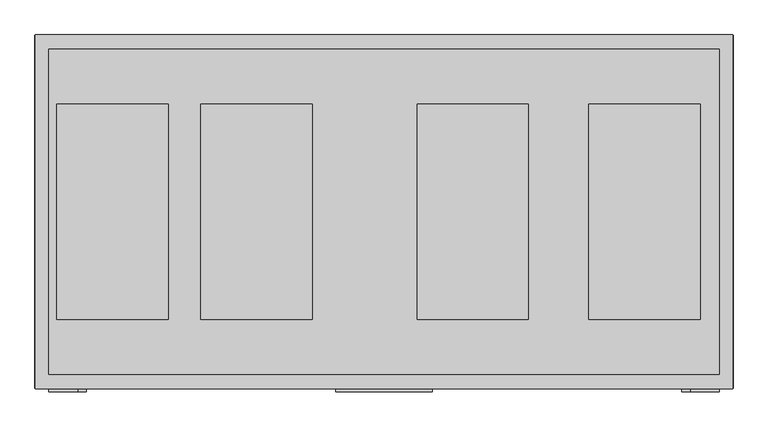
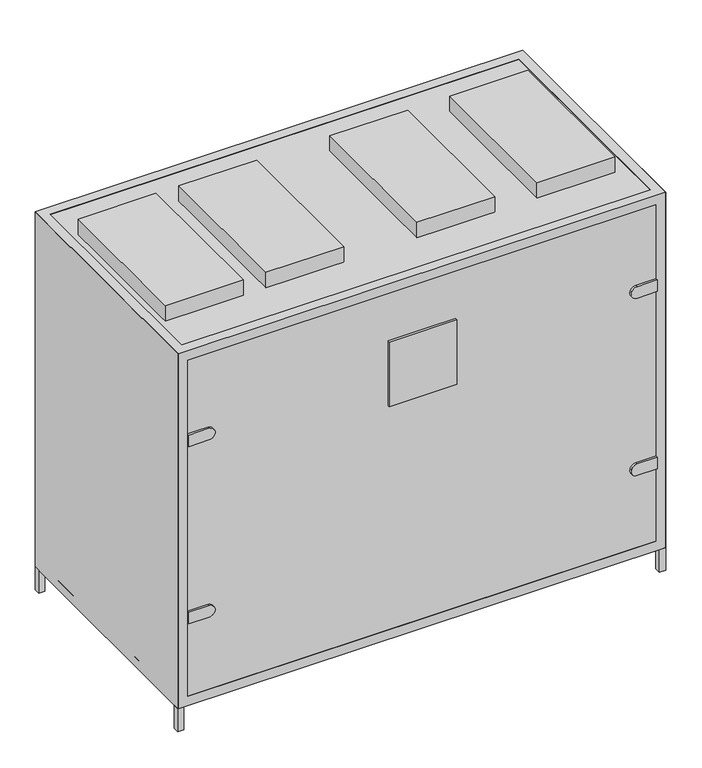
"""IFC4 building model written with IfcOpenShell, lengths in millimetres: proxy geometry, AVS 2200...3800-V-RC(RG) : AVS 3800-V-RC."""

import ifcopenshell
import ifcopenshell.guid

model = None  # the IFC model being written
_history = None  # IfcOwnerHistory: only IFC2X3 demands one
_inside = {}  # id of a spatial element -> (the spatial element, [elements in it])
_under = {}  # id of a project, library or spatial element -> (it, [spatial elements below it])
_declared = {}  # id of a project -> (the project, [libraries it declares])
_typed = {}  # id of a type object -> (the type object, [elements of that type])
_made_of = {}  # id of a material, layer set ... -> (it, [elements and type objects made of it])


def new_model(schema):
    """Start an empty IFC model of exactly this schema.

    Asked for "IFC4X3", IfcOpenShell would pick the latest addendum, in which some entities
    have other attributes; the version numbers below select the first issue.
    IFC2X3 requires an IfcOwnerHistory on every rooted entity: one is made here for all.
    """
    global model, _history
    if schema == "IFC4X3":
        model = ifcopenshell.file(schema_version=(4, 3, 0, 0))
    else:
        model = ifcopenshell.file(schema=schema)
    _inside.clear()
    _under.clear()
    _declared.clear()
    _typed.clear()
    _made_of.clear()
    _history = None
    if model.schema == "IFC2X3":
        org = make("IfcOrganization", Name="unknown")
        user = make(
            "IfcPersonAndOrganization",
            ThePerson=make("IfcPerson", FamilyName="unknown"),
            TheOrganization=org,
        )
        app = make(
            "IfcApplication",
            ApplicationDeveloper=org,
            Version="unknown",
            ApplicationFullName="unknown",
            ApplicationIdentifier="unknown",
        )
        _history = make(
            "IfcOwnerHistory",
            OwningUser=user,
            OwningApplication=app,
            ChangeAction="ADDED",
            CreationDate=0,
        )
    return model


def make(cls, **values):
    """One entity of the class cls with the attributes given. An attribute that is None is left unset."""
    return model.create_entity(
        cls, **{name: value for name, value in values.items() if value is not None}
    )


def rooted(cls, **values):
    """An entity with a GlobalId (a new one), such as an element, a storey or a relation."""
    return make(cls, GlobalId=ifcopenshell.guid.new(), OwnerHistory=_history, **values)


def si_unit(unit_type, name, prefix=None):
    """IfcSIUnit, for example si_unit("LENGTHUNIT", "METRE", prefix="MILLI")."""
    return make("IfcSIUnit", UnitType=unit_type, Prefix=prefix, Name=name)


def assignment(units):
    """IfcUnitAssignment: the units of a project."""
    return None if units is None else make("IfcUnitAssignment", Units=units)


def point(xyz):
    """IfcCartesianPoint."""
    return None if xyz is None else make("IfcCartesianPoint", Coordinates=xyz)


def direction(xyz):
    """IfcDirection."""
    return None if xyz is None else make("IfcDirection", DirectionRatios=xyz)


def frame(location, z_axis=None, x_axis=None):
    """IfcAxis2Placement3D, a coordinate frame: its origin and axes. An axis left out is left unset."""
    return make(
        "IfcAxis2Placement3D",
        Location=point(location),
        Axis=direction(z_axis),
        RefDirection=direction(x_axis),
    )


def frame_2d(location, x_axis=None):
    """IfcAxis2Placement2D, a coordinate frame in the plane: its origin and x axis."""
    return make(
        "IfcAxis2Placement2D", Location=point(location), RefDirection=direction(x_axis)
    )


def origin():
    """The frame at (0, 0, 0) with its axes left unset."""
    return frame((0.0, 0.0, 0.0))


def origin_with_axes():
    """The frame at (0, 0, 0) with the z axis (0, 0, 1) and the x axis (1, 0, 0) written out."""
    return frame((0.0, 0.0, 0.0), z_axis=(0.0, 0.0, 1.0), x_axis=(1.0, 0.0, 0.0))


def place(relative_to, where):
    """IfcLocalPlacement: puts the frame where relative to a parent placement (None: the world)."""
    return make(
        "IfcLocalPlacement", PlacementRelTo=relative_to, RelativePlacement=where
    )


def context(
    kind, dimensions, precision=None, world=None, true_north=None, identifier=None
):
    """IfcGeometricRepresentationContext, for example the 3D "Model" context."""
    return make(
        "IfcGeometricRepresentationContext",
        ContextIdentifier=identifier,
        ContextType=kind,
        CoordinateSpaceDimension=dimensions,
        Precision=precision,
        WorldCoordinateSystem=world,
        TrueNorth=true_north,
    )


def project(units=None, contexts=None):
    """IfcProject with its units and contexts."""
    return rooted(
        "IfcProject",
        Name="project",
        RepresentationContexts=contexts,
        UnitsInContext=assignment(units),
    )


def spatial(cls, under=None, at=None, **own):
    """A site, building, storey or space (cls), placed at a placement, below another one or the project."""
    s = rooted(cls, ObjectPlacement=at, **own)
    if under is not None:
        _under.setdefault(under.id(), (under, []))[1].append(s)
    return s


def polyline(points):
    """IfcPolyline through the points."""
    return make("IfcPolyline", Points=[point(p) for p in points])


def circle_curve(where, radius):
    """IfcCircle in the frame where."""
    return make("IfcCircle", Position=where, Radius=radius)


def trimmed(basis, trim1, trim2, sense, master):
    """IfcTrimmedCurve: the piece of a basis curve between two trims."""
    return make(
        "IfcTrimmedCurve",
        BasisCurve=basis,
        Trim1=trim1,
        Trim2=trim2,
        SenseAgreement=sense,
        MasterRepresentation=master,
    )


def segment(curve, same_sense, transition):
    """IfcCompositeCurveSegment."""
    return make(
        "IfcCompositeCurveSegment",
        Transition=transition,
        SameSense=same_sense,
        ParentCurve=curve,
    )


def composite_curve(segments, self_intersect=None):
    """IfcCompositeCurve: segments joined end to end."""
    return make("IfcCompositeCurve", Segments=segments, SelfIntersect=self_intersect)


def outline(outer, holes=None, kind="AREA"):
    """IfcArbitraryClosedProfileDef: a profile drawn as a closed curve; with holes, ...WithVoids."""
    if holes is None:
        return make("IfcArbitraryClosedProfileDef", ProfileType=kind, OuterCurve=outer)
    return make(
        "IfcArbitraryProfileDefWithVoids",
        ProfileType=kind,
        OuterCurve=outer,
        InnerCurves=holes,
    )


def extrude(swept, where, along, depth):
    """IfcExtrudedAreaSolid: the profile swept, set in the frame where, extruded along a direction by depth."""
    return make(
        "IfcExtrudedAreaSolid",
        SweptArea=swept,
        Position=where,
        ExtrudedDirection=direction(along),
        Depth=depth,
    )


def faces_of(points, faces, orient=None, outer=None):
    """IfcFace entities. A face is a list of loops; a loop is a list of indices into points, from 0.

    orient and outer hold one flag for each loop. By default every Orientation is true, the
    first loop of a face is its IfcFaceOuterBound and the others are IfcFaceBound.
    """
    made = []
    for i, loops in enumerate(faces):
        bounds = []
        for j, loop in enumerate(loops):
            is_outer = j == 0 if outer is None else outer[i][j]
            bounds.append(
                make(
                    "IfcFaceOuterBound" if is_outer else "IfcFaceBound",
                    Bound=make("IfcPolyLoop", Polygon=[points[k] for k in loop]),
                    Orientation=True if orient is None else orient[i][j],
                )
            )
        made.append(make("IfcFace", Bounds=bounds))
    return made


def faceted_brep(points, faces, orient=None, outer=None, voids=None):
    """IfcFacetedBrep: a solid bounded by flat faces; with voids (closed shells), ...WithVoids."""
    shared = [point(p) for p in points]
    hull = make("IfcClosedShell", CfsFaces=faces_of(shared, faces, orient, outer))
    if voids is None:
        return make("IfcFacetedBrep", Outer=hull)
    return make(
        "IfcFacetedBrepWithVoids",
        Outer=hull,
        Voids=[
            make(cls, CfsFaces=faces_of(shared, fs, o, b)) for cls, fs, o, b in voids
        ],
    )


def shape(context_of_items, identifier, shape_type, items):
    """IfcShapeRepresentation: the items that make up one representation, for example the "Body"."""
    return make(
        "IfcShapeRepresentation",
        ContextOfItems=context_of_items,
        RepresentationIdentifier=identifier,
        RepresentationType=shape_type,
        Items=items,
    )


def source(mapping_origin, context_of_items, identifier, shape_type, items):
    """IfcRepresentationMap: a shape defined once, which mapped items show again and again."""
    return make(
        "IfcRepresentationMap",
        MappingOrigin=mapping_origin,
        MappedRepresentation=shape(context_of_items, identifier, shape_type, items),
    )


def transform(
    local_origin,
    x_axis=None,
    y_axis=None,
    z_axis=None,
    scale=None,
    scale2=None,
    scale3=None,
    uniform=True,
):
    """IfcCartesianTransformationOperator3D, or its non-uniform kind. x_axis, y_axis, z_axis: its Axis1, 2, 3."""
    if uniform:
        return make(
            "IfcCartesianTransformationOperator3D",
            Axis1=direction(x_axis),
            Axis2=direction(y_axis),
            LocalOrigin=point(local_origin),
            Scale=scale,
            Axis3=direction(z_axis),
        )
    return make(
        "IfcCartesianTransformationOperator3DnonUniform",
        Axis1=direction(x_axis),
        Axis2=direction(y_axis),
        LocalOrigin=point(local_origin),
        Scale=scale,
        Axis3=direction(z_axis),
        Scale2=scale2,
        Scale3=scale3,
    )


def mapped(mapping_source, mapping_target):
    """IfcMappedItem: shows the shape of a source again, moved by a transform."""
    return make(
        "IfcMappedItem", MappingSource=mapping_source, MappingTarget=mapping_target
    )


def made_of(thing, what):
    """Note that an element or type object is made of a material, layer set ...; save() writes the relation."""
    if what is not None:
        _made_of.setdefault(what.id(), (what, []))[1].append(thing)
    return thing


def element(
    cls,
    number,
    at=None,
    inside=None,
    cuts=None,
    type_object=None,
    material=None,
    context=None,
    identifier="Body",
    shape_type=None,
    held_by="IfcProductDefinitionShape",
    body=None,
    shapes=None,
    **own,
):
    """One element of the class cls, such as IfcWall. Its Tag is "e" and its number.

    at: its placement. inside: the storey or other place that contains it. cuts: it is an
    opening in that element (IfcRelVoidsElement). A single representation is given by context,
    identifier, shape_type and body (its items); several are given by shapes. held_by: the class
    of the entity that holds the representations. save() writes the other relations.
    """
    e = rooted(cls, Tag="e%d" % number, ObjectPlacement=at, **own)
    if body is not None:
        shapes = [shape(context, identifier, shape_type, body)]
    if shapes is not None:
        e.Representation = make(held_by, Representations=shapes)
    if inside is not None:
        _inside.setdefault(inside.id(), (inside, []))[1].append(e)
    if cuts is not None:
        rooted(
            "IfcRelVoidsElement", RelatingBuildingElement=cuts, RelatedOpeningElement=e
        )
    if type_object is not None:
        _typed.setdefault(type_object.id(), (type_object, []))[1].append(e)
    return made_of(e, material)


def aggregate(whole, parts):
    """IfcRelAggregates: a whole, such as a stair, and the parts it consists of."""
    return rooted("IfcRelAggregates", RelatingObject=whole, RelatedObjects=parts)


def save(model, path):
    """Write the relations noted so far, then the file.

    IfcRelAggregates (storeys below a building ...), IfcRelContainedInSpatialStructure (elements
    in a storey), IfcRelDefinesByType, IfcRelAssociatesMaterial and IfcRelDeclares: one each for
    every whole, place, type object, material and project.
    """
    for whole, parts in _under.values():
        aggregate(whole, parts)
    for where, things in _inside.values():
        rooted(
            "IfcRelContainedInSpatialStructure",
            RelatedElements=things,
            RelatingStructure=where,
        )
    for kind, things in _typed.values():
        rooted("IfcRelDefinesByType", RelatedObjects=things, RelatingType=kind)
    for what, things in _made_of.values():
        rooted("IfcRelAssociatesMaterial", RelatedObjects=things, RelatingMaterial=what)
    for by, libraries in _declared.values():
        rooted("IfcRelDeclares", RelatingContext=by, RelatedDefinitions=libraries)
    model.write(path)


def mechanical_equipment_55f593f8(model_context):
    return source(origin(), model_context, "Body", "SolidModel", [
        extrude(outline(polyline([(978.0, 508.0), (1003.0, 508.0), (1003.0, 483.0), (978.0, 483.0), (978.0, 508.0)])), origin_with_axes(), (0.0, 0.0, 1.0), 100.0),
        extrude(outline(polyline([(978.0, -508.0), (978.0, -483.0), (1003.0, -483.0), (1003.0, -508.0), (978.0, -508.0)])), origin_with_axes(), (0.0, 0.0, 1.0), 100.0),
        extrude(outline(polyline([(-1003.0, 483.0), (-1003.0, 508.0), (-978.0, 508.0), (-978.0, 483.0), (-1003.0, 483.0)])), origin_with_axes(), (0.0, 0.0, 1.0), 100.0),
        extrude(outline(polyline([(-1003.0, -483.0), (-978.0, -483.0), (-978.0, -508.0), (-1003.0, -508.0), (-1003.0, -483.0)])), origin_with_axes(), (0.0, 0.0, 1.0), 100.0),
        faceted_brep([(1002.0, 509.0, 1643.0), (-1002.0, 509.0, 1643.0), (-1002.0, -509.0, 1643.0), (1002.0, -509.0, 1643.0), (-963.0, 468.0, 1643.0), (20.0, 468.0, 1643.0), (963.0, 468.0, 1643.0), (963.0, -468.0, 1643.0), (20.0, -468.0, 1643.0), (-963.0, -468.0, 1643.0), (1002.0, 509.0, 99.0), (1002.0, -509.0, 99.0), (-1002.0, -509.0, 99.0), (-1002.0, 509.0, 99.0), (20.0, 468.0, 99.0), (-963.0, 468.0, 99.0), (-963.0, -468.0, 99.0), (20.0, -468.0, 99.0), (963.0, -468.0, 99.0), (963.0, 468.0, 99.0), (20.0, 509.0, 1602.0), (-963.0, 509.0, 1602.0), (-963.0, 509.0, 140.0), (20.0, 509.0, 140.0), (963.0, 509.0, 140.0), (963.0, 509.0, 1602.0), (-1002.0, -468.0, 1602.0), (-1002.0, -468.0, 140.0), (-1002.0, 468.0, 140.0), (-1002.0, 468.0, 1602.0), (-963.0, -509.0, 1602.0), (20.0, -509.0, 1602.0), (963.0, -509.0, 1602.0), (963.0, -509.0, 140.0), (20.0, -509.0, 140.0), (-963.0, -509.0, 140.0), (-963.0, 468.0, 1602.0), (20.0, 468.0, 1602.0), (20.0, 468.0, 140.0), (-963.0, 468.0, 140.0), (20.0, -468.0, 1602.0), (-963.0, -468.0, 1602.0), (-963.0, -468.0, 140.0), (20.0, -468.0, 140.0), (963.0, 468.0, 1602.0), (963.0, 468.0, 140.0), (963.0, -468.0, 140.0), (963.0, -468.0, 1602.0), (866.0, 468.0, 1602.0), (866.0, 468.0, 140.0), (866.0, -468.0, 1602.0), (866.0, -468.0, 140.0)], [[[0, 1, 2, 3], [4, 5, 6, 7, 8, 9]], [[10, 11, 12, 13], [14, 15, 16, 17, 18, 19]], [[1, 0, 10, 13], [20, 21, 22, 23, 24, 25]], [[2, 1, 13, 12], [26, 27, 28, 29]], [[3, 2, 12, 11], [30, 31, 32, 33, 34, 35]], [[0, 3, 11, 10]], [[5, 4, 36, 37]], [[15, 14, 38, 39]], [[9, 8, 40, 41]], [[17, 16, 42, 43]], [[7, 6, 44, 25, 24, 45, 19, 18, 46, 33, 32, 47]], [[30, 41, 40, 31]], [[20, 37, 36, 21]], [[42, 35, 34, 43]], [[38, 23, 22, 39]], [[26, 41, 42, 27]], [[39, 28, 27, 42]], [[36, 29, 28, 39]], [[29, 36, 41, 26]], [[4, 9, 41, 36]], [[16, 15, 39, 42]], [[41, 30, 35, 42]], [[21, 36, 39, 22]], [[6, 5, 37, 48, 44]], [[14, 19, 45, 49, 38]], [[8, 7, 47, 50, 40]], [[18, 17, 43, 51, 46]], [[47, 32, 31, 40, 50]], [[37, 20, 25, 44, 48]], [[33, 46, 51, 43, 34]], [[23, 38, 49, 45, 24]]]),
        extrude(outline(polyline([(-1003.0, 508.0), (1003.0, 508.0), (1003.0, -508.0), (-1003.0, -508.0), (-1003.0, 508.0)])), frame((0.0, 0.0, 100.0), z_axis=(0.0, 0.0, 1.0), x_axis=(1.0, 0.0, 0.0)), (0.0, 0.0, 1.0), 1542.0),
        extrude(outline(polyline([(-620.0, 310.0), (-620.0, -310.0), (-940.0, -310.0), (-940.0, 310.0), (-620.0, 310.0)])), frame((0.0, 0.0, 1642.0), z_axis=(0.0, 0.0, 1.0), x_axis=(1.0, 0.0, 0.0)), (0.0, 0.0, 1.0), 68.0),
        extrude(outline(polyline([(-206.0, 310.0), (-206.0, -310.0), (-526.0, -310.0), (-526.0, 310.0), (-206.0, 310.0)])), frame((0.0, 0.0, 1642.0), z_axis=(0.0, 0.0, 1.0), x_axis=(1.0, 0.0, 0.0)), (0.0, 0.0, 1.0), 68.0),
        extrude(outline(polyline([(415.0, 310.0), (415.0, -310.0), (95.0, -310.0), (95.0, 310.0), (415.0, 310.0)])), frame((0.0, 0.0, 1642.0), z_axis=(0.0, 0.0, 1.0), x_axis=(1.0, 0.0, 0.0)), (0.0, 0.0, 1.0), 68.0),
        extrude(outline(polyline([(908.0, 310.0), (908.0, -310.0), (588.0, -310.0), (588.0, 310.0), (908.0, 310.0)])), frame((0.0, 0.0, 1642.0), z_axis=(0.0, 0.0, 1.0), x_axis=(1.0, 0.0, 0.0)), (0.0, 0.0, 1.0), 68.0),
        extrude(outline(composite_curve([segment(polyline([(1281.5, -880.2895396), (1281.5, -963.0), (1231.5, -963.0), (1231.5, -880.2895396)]), True, "CONTINUOUS"), segment(trimmed(circle_curve(frame_2d((1256.5, -880.2895396)), 25.0), [point((1231.5, -880.2895396))], [point((1281.5, -880.2895396))], False, "CARTESIAN"), True, "CONTINUOUS")], self_intersect=False)), frame((0.0, -518.0, 0.0), z_axis=(0.0, 1.0, 0.0), x_axis=(0.0, 0.0, 1.0)), (0.0, 0.0, 1.0), 10.0),
        extrude(outline(composite_curve([segment(polyline([(510.5, -880.2895396), (510.5, -963.0), (460.5, -963.0), (460.5, -880.2895396)]), True, "CONTINUOUS"), segment(trimmed(circle_curve(frame_2d((485.5, -880.2895396)), 25.0), [point((460.5, -880.2895396))], [point((510.5, -880.2895396))], False, "CARTESIAN"), True, "CONTINUOUS")], self_intersect=False)), frame((0.0, -518.0, 0.0), z_axis=(0.0, 1.0, 0.0), x_axis=(0.0, 0.0, 1.0)), (0.0, 0.0, 1.0), 10.0),
        extrude(outline(polyline([(139.159373, -518.0), (-139.159373, -518.0), (-139.159373, -508.0), (139.159373, -508.0), (139.159373, -518.0)])), frame((0.0, 0.0, 1115.8090991), z_axis=(0.0, 0.0, 1.0), x_axis=(1.0, 0.0, 0.0)), (0.0, 0.0, 1.0), 281.3818018),
        extrude(outline(composite_curve([segment(trimmed(circle_curve(frame_2d((1256.5, 880.2895396)), 25.0), [point((1281.5, 880.2895396))], [point((1231.5, 880.2895396))], False, "CARTESIAN"), True, "CONTINUOUS"), segment(polyline([(1231.5, 880.2895396), (1231.5, 963.0), (1281.5, 963.0), (1281.5, 880.2895396)]), True, "CONTINUOUS")], self_intersect=False)), frame((0.0, -518.0, 0.0), z_axis=(0.0, 1.0, 0.0), x_axis=(0.0, 0.0, 1.0)), (0.0, 0.0, 1.0), 10.0),
        extrude(outline(composite_curve([segment(trimmed(circle_curve(frame_2d((485.5, 880.2895396)), 25.0), [point((510.5, 880.2895396))], [point((460.5, 880.2895396))], False, "CARTESIAN"), True, "CONTINUOUS"), segment(polyline([(460.5, 880.2895396), (460.5, 963.0), (510.5, 963.0), (510.5, 880.2895396)]), True, "CONTINUOUS")], self_intersect=False)), frame((0.0, -518.0, 0.0), z_axis=(0.0, 1.0, 0.0), x_axis=(0.0, 0.0, 1.0)), (0.0, 0.0, 1.0), 10.0),
    ])


if __name__ == "__main__":
    model = new_model("IFC4")
    model_context = context("Model", 3, world=origin())
    ifc_project = project(units=[si_unit("LENGTHUNIT", "METRE", prefix="MILLI")], contexts=[model_context])
    site = spatial("IfcSite", under=ifc_project)
    building = spatial("IfcBuilding", under=site)
    placement = place(None, origin())
    mechanical_equipment_shape = mechanical_equipment_55f593f8(model_context)
    element("IfcBuildingElementProxy", 1, Name="AVS 2200...3800-V-RC(RG) : AVS 3800-V-RC", ObjectType="AVS 2200...3800-V-RC(RG) : AVS 3800-V-RC", at=placement, inside=building, context=model_context, shape_type="MappedRepresentation", body=[
        mapped(mechanical_equipment_shape, transform((0.0, 0.0, 0.0), x_axis=(1.0, 0.0, 0.0), y_axis=(0.0, 1.0, 0.0), z_axis=(0.0, 0.0, 1.0))),
    ])
    save(model, "model.ifc")
